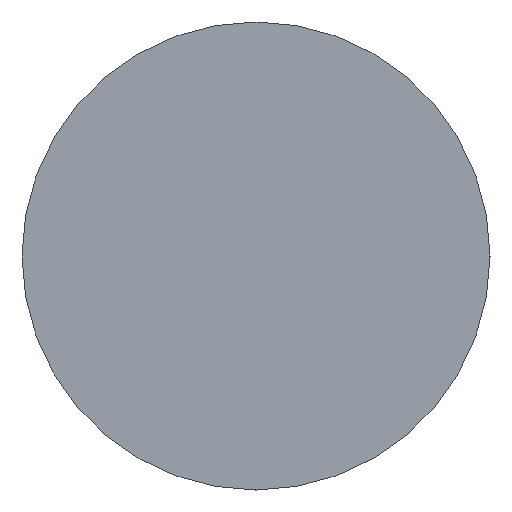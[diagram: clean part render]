
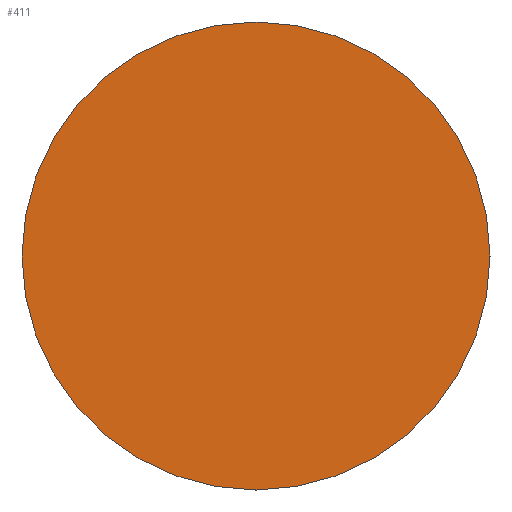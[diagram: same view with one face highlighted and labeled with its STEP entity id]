
A CAD part, left-side view. The second image highlights one B-rep face of the part: STEP entity #411.
In plain terms, the highlighted planar face has unit normal (-1, 0, 0).
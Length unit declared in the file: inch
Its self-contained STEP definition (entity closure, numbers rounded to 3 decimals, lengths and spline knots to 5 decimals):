
#21 = DIRECTION ( 'NONE',  ( -1., 0., 0. ) ) ;
#25 = FACE_OUTER_BOUND ( 'NONE', #184, .T. ) ;
#33 = DIRECTION ( 'NONE',  ( 1., 0., 0. ) ) ;
#35 = DIRECTION ( 'NONE',  ( 0., 0., 1. ) ) ;
#38 = ORIENTED_EDGE ( 'NONE', *, *, #319, .T. ) ;
#70 = AXIS2_PLACEMENT_3D ( 'NONE', #235, #33, #182 ) ;
#95 = CARTESIAN_POINT ( 'NONE',  ( -6., 0., 0. ) ) ;
#133 = DIRECTION ( 'NONE',  ( 0., 0., 1. ) ) ;
#152 = ORIENTED_EDGE ( 'NONE', *, *, #159, .T. ) ;
#159 = EDGE_CURVE ( 'NONE', #197, #330, #285, .T. ) ;
#182 = DIRECTION ( 'NONE',  ( 0., 0., -1. ) ) ;
#184 = EDGE_LOOP ( 'NONE', ( #152, #38 ) ) ;
#197 = VERTEX_POINT ( 'NONE', #209 ) ;
#209 = CARTESIAN_POINT ( 'NONE',  ( -6., 0., 0.5 ) ) ;
#235 = CARTESIAN_POINT ( 'NONE',  ( -6., 0.5, 0. ) ) ;
#273 = PLANE ( 'NONE',  #70 ) ;
#279 = CIRCLE ( 'NONE', #381, 0.5 ) ;
#285 = CIRCLE ( 'NONE', #339, 0.5 ) ;
#317 = CARTESIAN_POINT ( 'NONE',  ( -6., 0., -0.5 ) ) ;
#319 = EDGE_CURVE ( 'NONE', #330, #197, #279, .T. ) ;
#330 = VERTEX_POINT ( 'NONE', #317 ) ;
#337 = CARTESIAN_POINT ( 'NONE',  ( -6., 0., 0. ) ) ;
#339 = AXIS2_PLACEMENT_3D ( 'NONE', #337, #430, #35 ) ;
#381 = AXIS2_PLACEMENT_3D ( 'NONE', #95, #21, #133 ) ;
#411 = ADVANCED_FACE ( 'NONE', ( #25 ), #273, .F. ) ;
#430 = DIRECTION ( 'NONE',  ( -1., 0., 0. ) ) ;
